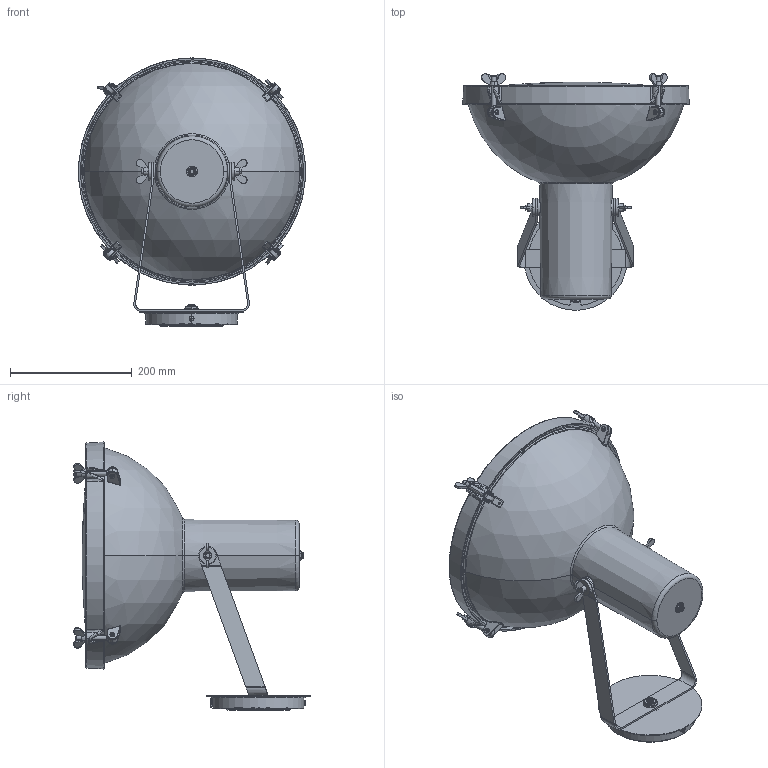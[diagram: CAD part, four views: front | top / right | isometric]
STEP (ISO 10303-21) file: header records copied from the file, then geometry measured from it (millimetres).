
FILE_DESCRIPTION (( 'STEP AP203' ), '1' );
FILE_NAME ('810PRJEDW311.STEP', '2016-09-07T09:09:48', ( '' ), ( '' ), 'SwSTEP 2.0', 'SolidWorks 2016', '' );
FILE_SCHEMA (( 'CONFIG_CONTROL_DESIGN' ));
Length unit declared in the file: millimetre
Products named in the file (44): dado M3_B18.2.4.2M - Hex nut, Style 2,  M3 x 0.5 --D-N; 810PRJEDW311; 052PRJ000100; 019com000229; 010PRJ700810_PERNO DI FRIZIONE 180°; ranella-teflon; TIGE M10x1 L=30 019COM000276; 061PRJ000100_VETRO PROJECTEUR 365; PTL_E27_CERAM_P113; 010PRJ700900_COPERTURA ESTERNA FRIZIONE; molla-tazza; dado M10x1 sp.2,5; 052AQU000200; 001COM000002; ranella 10.5x17x1 steab 5300-10-1-2; 010PRJ701520; Steab 5101 passacavo; 010PRJ700200_SQUADRET. VITE OCH; 101005x10; Ranella 10x21x2 001659200010; rondella dentellata d 4; 010PRJ701700_PERNO FRIZ PARETE ZN.NERO; rondella dentellata d 10_001884200014; 002COM000044; 003COM000007; Molla a tazza 7130020x10_2x0_4; Vite M4x6 TCICR_B18.6.7M - M4 x 0.7 x 6 Type I Cross Recessed PHMS --6N; 010PRJ701800_COPERCH ROSON ORIENT_PERNO-RIBATTUTO; 010HON000110_CAVALLOTTO ZINCATO B.CO CFORI; 002COM000047; 052PRJ000100_b; nut_gb_t_62_1_m8_a; ranella staffa; 010PRJ701420; 010PRJ001300_BUSSOLA OTTONE ZN N M4X5,8X10; spina 3x5; 010PRJ700130_SCHERMO AL C-FORI D365 GREZZO; VITE M4x10 TCICR_B18.6.7M - M4 x 0.7 x 10 Type I Cross Recessed PHMS --10N; 010PRJ701900_COPERCHIO FRIZ ZN BI; rondella spaccata 5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
Assembly tree (116 placements, depth 2):
  810PRJEDW311
    010PRJ701700_PERNO FRIZ PARETE ZN.NERO
    010PRJ701800_COPERCH ROSON ORIENT_PERNO-RIBATTUTO
    010PRJ701420
    010PRJ701900_COPERCHIO FRIZ ZN BI
    010PRJ701210_STAFFA SCHERMO
    ranella-teflon
    molla-tazza
    010PRJ701520
    rondella dentellata d 4  x2
    Vite M4x6 TCICR_B18.6.7M - M4 x 0.7 x 6 Type I Cross Recessed PHMS --6N  x6
    ranella staffa
    VITE M4x10 TCICR_B18.6.7M - M4 x 0.7 x 10 Type I Cross Recessed PHMS --10N
    dado M12 sp.3_B18.2.4.5M - Hex jam nut,  M12 x 1.75 --D-N
    010PRJ700810_PERNO DI FRIZIONE 180°  x2
    010PRJ700900_COPERTURA ESTERNA FRIZIONE  x2
    ranella 10.5x17x1 steab 5300-10-1-2  x2
    Ranella 10x21x2 001659200010  x2
    Molla a tazza 7130020x10_2x0_4  x2
    nut_gb_t_62_1_m8_a  x2
    010PRJ700130_SCHERMO AL C-FORI D365 GREZZO
    051PRJ000100_GHIERA GREZZO
    052PRJ000100
    061PRJ000100_VETRO PROJECTEUR 365
    052AQU000200  x4
    010PRJ700200_SQUADRET. VITE OCH  x4
    002COM000044  x4
    002COM000047  x8
    010PRJ001300_BUSSOLA OTTONE ZN N M4X5,8X10  x4
    rondella spaccata 5  x10
    dado M3_B18.2.4.2M - Hex nut, Style 2,  M3 x 0.5 --D-N  x8
    TIGE M10x1 L=30 019COM000276  x2
    dado M10x1 sp.2,5  x5
    Steab 5101 passacavo  x5
    rondella dentellata d 10_001884200014  x6
    010HON000110_CAVALLOTTO ZINCATO B.CO CFORI
    019com000229
    PTL_E27_CERAM_P113
    001COM000002  x2
    101005x10  x2
    003COM000007  x4
    052PRJ000100_b  x8
    spina 3x5
    dado M4
Bounding box: 372.96 x 387.62 x 440.18 mm (x, y, z)
Volume: 1261682.8 mm3; surface area: 1138333.2 mm2
Topology: 129 solids, 129 shells, 3168 faces, 7713 edges, 4820 vertices
Faces by surface type: plane 1237, cylinder 973, cone 474, bspline 268, torus 182, sphere 34
Entity records: 68147 total; most frequent: CARTESIAN_POINT 28446, ORIENTED_EDGE 7054, DIRECTION 6677, EDGE_CURVE 3527, AXIS2_PLACEMENT_3D 2618, VERTEX_POINT 2206, EDGE_LOOP 1639, ADVANCED_FACE 1448
